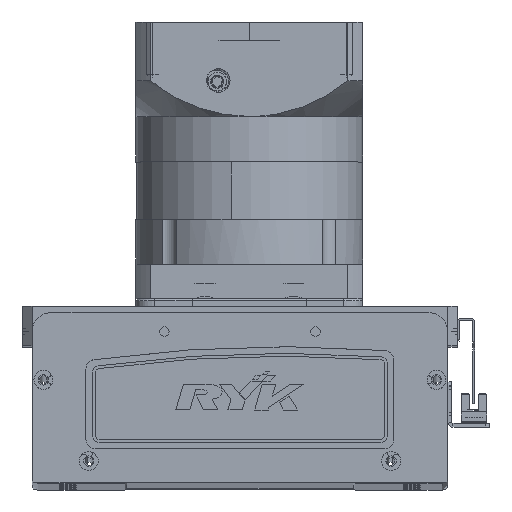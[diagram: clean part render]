
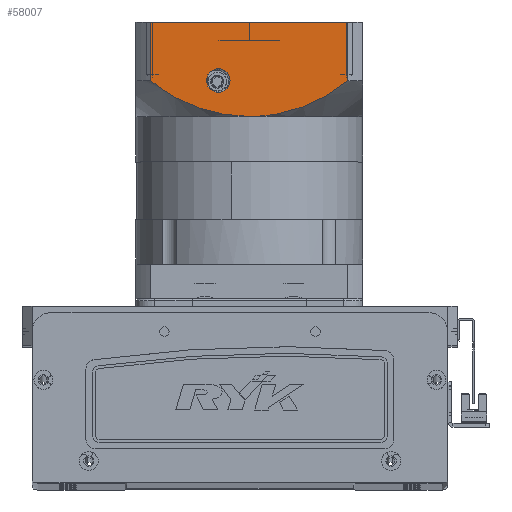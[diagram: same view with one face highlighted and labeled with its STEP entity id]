
A CAD part, top view. The second image highlights one B-rep face of the part: STEP entity #58007.
In plain terms, the highlighted planar face has unit normal (0, 0, 1) as drawn and (0, -1, 0) by its records, which use the part's own axes.
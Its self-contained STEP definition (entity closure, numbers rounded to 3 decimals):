
#303 = DIRECTION ( 'NONE',  ( 0., 1., 0. ) ) ;
#2465 = CARTESIAN_POINT ( 'NONE',  ( -60., -60., -150.5 ) ) ;
#2915 = CARTESIAN_POINT ( 'NONE',  ( 48.457, -60., -116.522 ) ) ;
#2960 = CARTESIAN_POINT ( 'NONE',  ( -32.118, -60., -107.084 ) ) ;
#3049 = CIRCLE ( 'NONE', #62308, 6.25 ) ;
#3380 = CARTESIAN_POINT ( 'NONE',  ( -18.792, -60., -102.562 ) ) ;
#3398 = EDGE_CURVE ( 'NONE', #4378, #8339, #3049, .T. ) ;
#3472 = CIRCLE ( 'NONE', #16182, 6.25 ) ;
#3920 = CARTESIAN_POINT ( 'NONE',  ( 0., -60., -100.5 ) ) ;
#4378 = VERTEX_POINT ( 'NONE', #57282 ) ;
#4465 = DIRECTION ( 'NONE',  ( 0., 0., -1. ) ) ;
#7761 = CARTESIAN_POINT ( 'NONE',  ( 50.338, -60., -117.969 ) ) ;
#8198 = CARTESIAN_POINT ( 'NONE',  ( 32.196, -60., -107.007 ) ) ;
#8339 = VERTEX_POINT ( 'NONE', #38926 ) ;
#9095 = DIRECTION ( 'NONE',  ( 0., 1., 0. ) ) ;
#9871 = VECTOR ( 'NONE', #58647, 1000. ) ;
#12092 = EDGE_LOOP ( 'NONE', ( #45472, #21385 ) ) ;
#12106 = EDGE_CURVE ( 'NONE', #27842, #28389, #49989, .T. ) ;
#12180 = CARTESIAN_POINT ( 'NONE',  ( 18.739, -60., -102.681 ) ) ;
#13051 = CARTESIAN_POINT ( 'NONE',  ( 44.553, -60., -113.817 ) ) ;
#13091 = CARTESIAN_POINT ( 'NONE',  ( -2.376, -60., -100.5 ) ) ;
#13242 = ORIENTED_EDGE ( 'NONE', *, *, #15840, .F. ) ;
#14794 = ORIENTED_EDGE ( 'NONE', *, *, #46101, .F. ) ;
#15840 = EDGE_CURVE ( 'NONE', #28389, #34629, #17596, .T. ) ;
#16182 = AXIS2_PLACEMENT_3D ( 'NONE', #24331, #9095, #4465 ) ;
#17251 = CARTESIAN_POINT ( 'NONE',  ( 15.267, -60., -101.938 ) ) ;
#17466 = CARTESIAN_POINT ( 'NONE',  ( 41.545, -60., -111.931 ) ) ;
#17596 = B_SPLINE_CURVE_WITH_KNOTS ( 'NONE', 3,
 ( #17670, #62854, #27833, #17251, #47419, #12180, #48290, #52686, #52482, #8198, #17896, #17466, #28051, #13051, #42564, #2915, #7761, #38179 ),
 .UNSPECIFIED., .F., .F.,
 ( 4, 2, 2, 2, 2, 2, 2, 2, 4 ),
 ( 0., 0.014, 0.018, 0.021, 0.028, 0.042, 0.046, 0.05, 0.057 ),
 .UNSPECIFIED. ) ;
#17670 = CARTESIAN_POINT ( 'NONE',  ( 0., -60., -100.5 ) ) ;
#17896 = CARTESIAN_POINT ( 'NONE',  ( 36.444, -60., -108.986 ) ) ;
#18156 = CARTESIAN_POINT ( 'NONE',  ( -48.52, -60., -116.438 ) ) ;
#18587 = CARTESIAN_POINT ( 'NONE',  ( -52.156, -60., -97.5 ) ) ;
#18598 = CARTESIAN_POINT ( 'NONE',  ( -35.342, -60., -108.587 ) ) ;
#19595 = FACE_OUTER_BOUND ( 'NONE', #47616, .T. ) ;
#20393 = DIRECTION ( 'NONE',  ( 1., 0., 0. ) ) ;
#21385 = ORIENTED_EDGE ( 'NONE', *, *, #27956, .T. ) ;
#23476 = CARTESIAN_POINT ( 'NONE',  ( -8.294, -60., -100.916 ) ) ;
#23684 = CARTESIAN_POINT ( 'NONE',  ( 0., -60., -100.5 ) ) ;
#24331 = CARTESIAN_POINT ( 'NONE',  ( 16.5, -60., -119.5 ) ) ;
#25612 = AXIS2_PLACEMENT_3D ( 'NONE', #2465, #63486, #37943 ) ;
#26462 = DIRECTION ( 'NONE',  ( 0., 0., 1. ) ) ;
#27833 = CARTESIAN_POINT ( 'NONE',  ( 9.454, -60., -100.914 ) ) ;
#27842 = VERTEX_POINT ( 'NONE', #57970 ) ;
#27876 = CARTESIAN_POINT ( 'NONE',  ( -29.939, -60., -106.183 ) ) ;
#27956 = EDGE_CURVE ( 'NONE', #8339, #4378, #3472, .T. ) ;
#28051 = CARTESIAN_POINT ( 'NONE',  ( 42.555, -60., -112.543 ) ) ;
#28244 = PLANE ( 'NONE',  #25612 ) ;
#28389 = VERTEX_POINT ( 'NONE', #3920 ) ;
#29627 = ORIENTED_EDGE ( 'NONE', *, *, #35638, .T. ) ;
#30432 = LINE ( 'NONE', #18587, #9871 ) ;
#32241 = CARTESIAN_POINT ( 'NONE',  ( 52.156, -60., -150.5 ) ) ;
#32859 = ORIENTED_EDGE ( 'NONE', *, *, #52419, .T. ) ;
#32956 = CARTESIAN_POINT ( 'NONE',  ( -12.993, -60., -101.537 ) ) ;
#33829 = CARTESIAN_POINT ( 'NONE',  ( -11.825, -60., -101.356 ) ) ;
#34629 = VERTEX_POINT ( 'NONE', #45095 ) ;
#35589 = CARTESIAN_POINT ( 'NONE',  ( 16.5, -60., -119.5 ) ) ;
#35638 = EDGE_CURVE ( 'NONE', #52990, #34629, #55397, .T. ) ;
#36997 = VECTOR ( 'NONE', #20393, 1000. ) ;
#37943 = DIRECTION ( 'NONE',  ( 1., 0., 0. ) ) ;
#38179 = CARTESIAN_POINT ( 'NONE',  ( 52.156, -60., -119.5 ) ) ;
#38663 = CARTESIAN_POINT ( 'NONE',  ( -4.747, -60., -100.604 ) ) ;
#38926 = CARTESIAN_POINT ( 'NONE',  ( 16.5, -60., -113.25 ) ) ;
#40220 = VERTEX_POINT ( 'NONE', #46678 ) ;
#41620 = CARTESIAN_POINT ( 'NONE',  ( 52.156, -60., -150.5 ) ) ;
#42564 = CARTESIAN_POINT ( 'NONE',  ( 45.542, -60., -114.478 ) ) ;
#43275 = CARTESIAN_POINT ( 'NONE',  ( -23.319, -60., -103.777 ) ) ;
#43919 = CARTESIAN_POINT ( 'NONE',  ( -52.156, -60., -119.5 ) ) ;
#45095 = CARTESIAN_POINT ( 'NONE',  ( 52.156, -60., -119.5 ) ) ;
#45472 = ORIENTED_EDGE ( 'NONE', *, *, #3398, .T. ) ;
#46101 = EDGE_CURVE ( 'NONE', #40220, #27842, #30432, .T. ) ;
#46191 = FACE_BOUND ( 'NONE', #12092, .T. ) ;
#46678 = CARTESIAN_POINT ( 'NONE',  ( -52.156, -60., -150.5 ) ) ;
#46897 = ORIENTED_EDGE ( 'NONE', *, *, #12106, .F. ) ;
#47419 = CARTESIAN_POINT ( 'NONE',  ( 16.426, -60., -102.169 ) ) ;
#47616 = EDGE_LOOP ( 'NONE', ( #14794, #32859, #29627, #13242, #46897 ) ) ;
#48290 = CARTESIAN_POINT ( 'NONE',  ( 19.894, -60., -102.964 ) ) ;
#48553 = CARTESIAN_POINT ( 'NONE',  ( -38.51, -60., -110.207 ) ) ;
#49989 = B_SPLINE_CURVE_WITH_KNOTS ( 'NONE', 3,
 ( #43919, #18156, #63777, #57994, #48553, #53167, #18598, #2960, #27876, #43275, #3380, #32956, #33829, #53806, #23476, #38663, #13091, #23684 ),
 .UNSPECIFIED., .F., .F.,
 ( 4, 2, 2, 2, 2, 2, 2, 2, 4 ),
 ( 0., 0.014, 0.018, 0.021, 0.028, 0.042, 0.046, 0.05, 0.057 ),
 .UNSPECIFIED. ) ;
#51944 = LINE ( 'NONE', #65158, #36997 ) ;
#52419 = EDGE_CURVE ( 'NONE', #40220, #52990, #51944, .T. ) ;
#52482 = CARTESIAN_POINT ( 'NONE',  ( 25.577, -60., -104.596 ) ) ;
#52686 = CARTESIAN_POINT ( 'NONE',  ( 23.329, -60., -103.886 ) ) ;
#52990 = VERTEX_POINT ( 'NONE', #32241 ) ;
#53167 = CARTESIAN_POINT ( 'NONE',  ( -36.409, -60., -109.113 ) ) ;
#53806 = CARTESIAN_POINT ( 'NONE',  ( -9.477, -60., -101.046 ) ) ;
#54638 = VECTOR ( 'NONE', #26462, 1000. ) ;
#55397 = LINE ( 'NONE', #41620, #54638 ) ;
#56216 = DIRECTION ( 'NONE',  ( 0., 0., -1. ) ) ;
#57282 = CARTESIAN_POINT ( 'NONE',  ( 16.5, -60., -125.75 ) ) ;
#57970 = CARTESIAN_POINT ( 'NONE',  ( -52.156, -60., -119.5 ) ) ;
#57994 = CARTESIAN_POINT ( 'NONE',  ( -39.546, -60., -110.776 ) ) ;
#58007 = ADVANCED_FACE ( 'NONE', ( #19595, #46191 ), #28244, .T. ) ;
#58647 = DIRECTION ( 'NONE',  ( 0., 0., 1. ) ) ;
#62308 = AXIS2_PLACEMENT_3D ( 'NONE', #35589, #303, #56216 ) ;
#62854 = CARTESIAN_POINT ( 'NONE',  ( 4.753, -60., -100.5 ) ) ;
#63486 = DIRECTION ( 'NONE',  ( 0., -1., 0. ) ) ;
#63777 = CARTESIAN_POINT ( 'NONE',  ( -44.656, -60., -113.73 ) ) ;
#65158 = CARTESIAN_POINT ( 'NONE',  ( -60., -60., -150.5 ) ) ;
